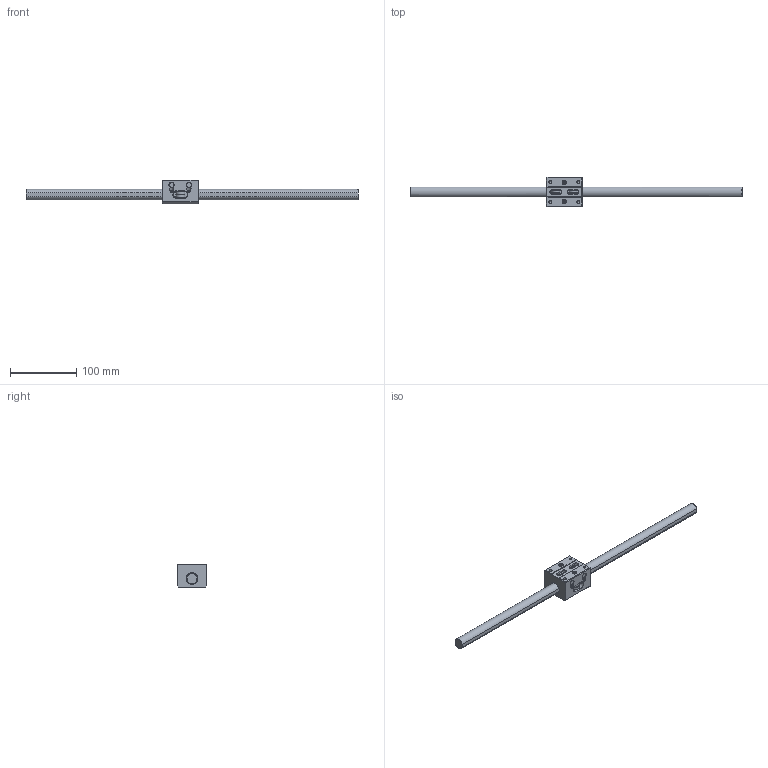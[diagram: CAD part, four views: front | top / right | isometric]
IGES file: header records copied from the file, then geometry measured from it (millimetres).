
Global section: file name: No Iges File Name specified; native system: AutoDesk Inventor R10; preprocessor: AutoDesk Inventor Iges Exporter R10; author: No Author specified; organization: No Organization specified; date: 20101222.154827; units: millimetre
Bounding box: 500 x 45 x 36 mm (x, y, z)
Surface area: 47752.9 mm2 (no closed solid volume)
Topology: 0 solids, 0 shells, 370 faces, 3162 edges, 3134 vertices
Faces by surface type: bspline 370
